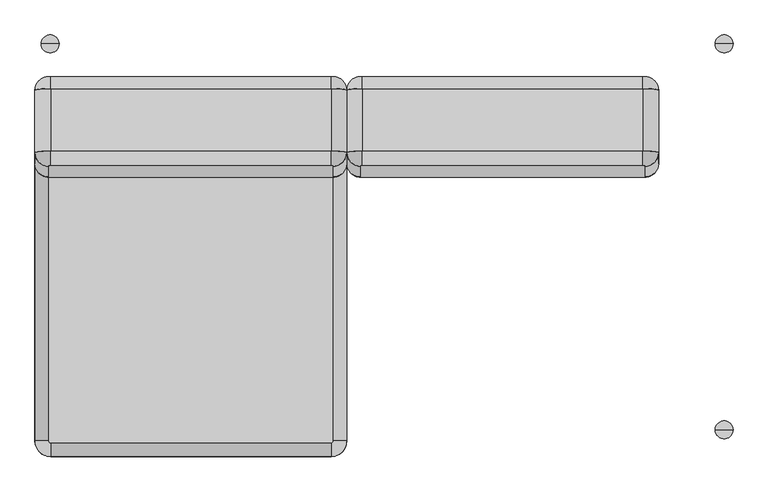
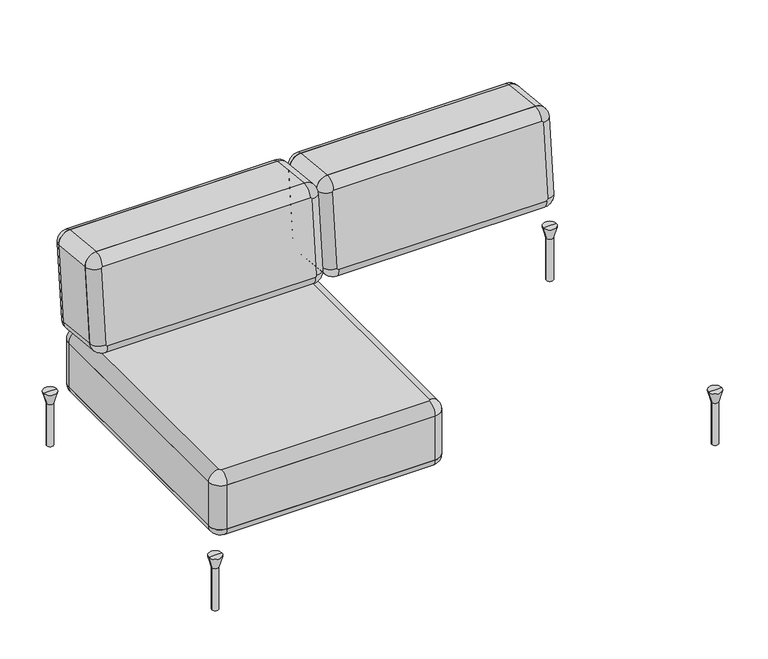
"""IFC4 building model written with IfcOpenShell, lengths in millimetres: furniture geometry, Sofa_Bensen_Neo_NEO25RIT : Sofa_Bensen_Neo_NEO25RIT."""

from ifc_helpers import new_model, si_unit, point, frame, frame_2d, origin, place, context, project, spatial, polyline, circle_curve, ellipse_curve, trimmed, segment, composite_curve, outline, extrude, source, transform, mapped, element, save
from ifc_brep_helpers import plane_surface, cylinder_surface, revolved_surface, advanced_brep


def furniture_29ceb941(model_context):
    return source(origin(), model_context, "Body", "SolidModel", [
        advanced_brep(
        [(-661.0275996, 430.0263245, 0.0), (-651.1832689, 430.0263245, 0.0), (-670.8719303, 430.0263245, 0.0), (-641.0551992, 430.0263245, 170.0), (-661.0275996, 430.0263245, 170.0), (-681.0, 430.0263245, 170.0), (-651.1832689, 430.0263245, 133.7982678), (-670.8719303, 430.0263245, 133.7982678)],
        [
            (0, 1),
            (1, 2, circle_curve(frame((-661.0275996, 430.0263245, 0.0), z_axis=(0.0, 0.0, -1.0), x_axis=(-1.0, 0.0, 0.0)), 9.8443307)),
            (2, 0),
            (2, 1, circle_curve(frame((-661.0275996, 430.0263245, 0.0), z_axis=(0.0, 0.0, -1.0), x_axis=(-1.0, 0.0, 0.0)), 9.8443307)),
            (3, 4),
            (4, 5),
            (5, 3, circle_curve(frame((-661.0275996, 430.0263245, 170.0), z_axis=(0.0, 0.0, 1.0), x_axis=(-1.0, 0.0, 0.0)), 19.9724004)),
            (3, 5, circle_curve(frame((-661.0275996, 430.0263245, 170.0), z_axis=(0.0, 0.0, 1.0), x_axis=(-1.0, 0.0, 0.0)), 19.9724004)),
            (6, 3),
            (5, 7),
            (7, 6, circle_curve(frame((-661.0275996, 430.0263245, 133.7982678), z_axis=(0.0, 0.0, 1.0), x_axis=(-1.0, 0.0, 0.0)), 9.8443307)),
            (6, 7, circle_curve(frame((-661.0275996, 430.0263245, 133.7982678), z_axis=(0.0, 0.0, 1.0), x_axis=(-1.0, 0.0, 0.0)), 9.8443307)),
            (1, 6),
            (7, 2),
        ],
        [
            plane_surface(frame((-661.0275996, 430.0263245, 0.0), z_axis=(0.0, 0.0, -1.0), x_axis=(-1.0, 0.0, 0.0))),
            plane_surface(frame((-661.0275996, 430.0263245, 170.0), z_axis=(0.0, 0.0, 1.0), x_axis=(-1.0, 0.0, 0.0))),
            revolved_surface(polyline([(-681.0, 430.0263245, 170.0), (-670.8719303, 430.0263245, 133.7982678)]), (-661.0275996, 430.0263245, 210.0), (0.0, 0.0, -1.0)),
            cylinder_surface(frame((-661.0275996, 430.0263245, 210.0), z_axis=(0.0, 0.0, -1.0), x_axis=(-1.0, 0.0, 0.0)), 9.8443307),
        ],
        [
            (0, [[1, 2, 3]]),
            (0, [[-3, 4, -1]]),
            (1, [[5, 6, 7]]),
            (1, [[-6, -5, 8]]),
            (2, [[9, -7, 10, 11]]),
            (2, [[-10, -8, -9, 12]]),
            (3, [[13, -11, 14, -2]]),
            (3, [[-14, -12, -13, -4]]),
        ],
    ),
        advanced_brep(
        [(-661.0275996, -430.0263245, 0.0), (-670.8719303, -430.0263245, 0.0), (-651.1832689, -430.0263245, 0.0), (-641.0551992, -430.0263245, 170.0), (-681.0, -430.0263245, 170.0), (-661.0275996, -430.0263245, 170.0), (-651.1832689, -430.0263245, 133.7982678), (-670.8719303, -430.0263245, 133.7982678)],
        [
            (0, 1),
            (1, 2, circle_curve(frame((-661.0275996, -430.0263245, 0.0), z_axis=(0.0, 0.0, -1.0), x_axis=(-1.0, 0.0, 0.0)), 9.8443307)),
            (2, 0),
            (2, 1, circle_curve(frame((-661.0275996, -430.0263245, 0.0), z_axis=(0.0, 0.0, -1.0), x_axis=(-1.0, 0.0, 0.0)), 9.8443307)),
            (3, 4, circle_curve(frame((-661.0275996, -430.0263245, 170.0), z_axis=(0.0, 0.0, 1.0), x_axis=(-1.0, 0.0, 0.0)), 19.9724004)),
            (4, 5),
            (5, 3),
            (4, 3, circle_curve(frame((-661.0275996, -430.0263245, 170.0), z_axis=(0.0, 0.0, 1.0), x_axis=(-1.0, 0.0, 0.0)), 19.9724004)),
            (6, 7, circle_curve(frame((-661.0275996, -430.0263245, 133.7982678), z_axis=(0.0, 0.0, 1.0), x_axis=(-1.0, 0.0, 0.0)), 9.8443307)),
            (7, 4),
            (3, 6),
            (7, 6, circle_curve(frame((-661.0275996, -430.0263245, 133.7982678), z_axis=(0.0, 0.0, 1.0), x_axis=(-1.0, 0.0, 0.0)), 9.8443307)),
            (1, 7),
            (6, 2),
        ],
        [
            plane_surface(frame((-661.0275996, -430.0263245, 0.0), z_axis=(0.0, 0.0, -1.0), x_axis=(-1.0, 0.0, 0.0))),
            plane_surface(frame((-661.0275996, -430.0263245, 170.0), z_axis=(0.0, 0.0, 1.0), x_axis=(-1.0, 0.0, 0.0))),
            revolved_surface(polyline([(-681.0, -430.0263245, 170.0), (-670.8719303, -430.0263245, 133.7982678)]), (-661.0275996, -430.0263245, 210.0), (0.0, 0.0, -1.0)),
            cylinder_surface(frame((-661.0275996, -430.0263245, 210.0), z_axis=(0.0, 0.0, -1.0), x_axis=(-1.0, 0.0, 0.0)), 9.8443307),
        ],
        [
            (0, [[1, 2, 3]]),
            (0, [[-3, 4, -1]]),
            (1, [[5, 6, 7]]),
            (1, [[8, -7, -6]]),
            (2, [[9, 10, -5, 11]]),
            (2, [[12, -11, -8, -10]]),
            (3, [[-2, 13, -9, 14]]),
            (3, [[-4, -14, -12, -13]]),
        ],
    ),
        advanced_brep(
        [(841.0275996, 430.0263245, 0.0), (850.8719302, 430.0263245, 0.0), (831.1832689, 430.0263245, 0.0), (821.0551992, 430.0263245, 170.0), (860.9999999, 430.0263245, 170.0), (841.0275996, 430.0263245, 170.0), (831.1832689, 430.0263245, 133.7982678), (850.8719302, 430.0263245, 133.7982678)],
        [
            (0, 1),
            (1, 2, circle_curve(frame((841.0275996, 430.0263245, 0.0), z_axis=(0.0, 0.0, -1.0), x_axis=(1.0, 0.0, 0.0)), 9.8443307)),
            (2, 0),
            (2, 1, circle_curve(frame((841.0275996, 430.0263245, 0.0), z_axis=(0.0, 0.0, -1.0), x_axis=(1.0, 0.0, 0.0)), 9.8443307)),
            (3, 4, circle_curve(frame((841.0275996, 430.0263245, 170.0), z_axis=(0.0, 0.0, 1.0), x_axis=(1.0, 0.0, 0.0)), 19.9724004)),
            (4, 5),
            (5, 3),
            (4, 3, circle_curve(frame((841.0275996, 430.0263245, 170.0), z_axis=(0.0, 0.0, 1.0), x_axis=(1.0, 0.0, 0.0)), 19.9724004)),
            (6, 7, circle_curve(frame((841.0275996, 430.0263245, 133.7982678), z_axis=(0.0, 0.0, 1.0), x_axis=(1.0, 0.0, 0.0)), 9.8443307)),
            (7, 4),
            (3, 6),
            (7, 6, circle_curve(frame((841.0275996, 430.0263245, 133.7982678), z_axis=(0.0, 0.0, 1.0), x_axis=(1.0, 0.0, 0.0)), 9.8443307)),
            (1, 7),
            (6, 2),
        ],
        [
            plane_surface(frame((841.0275996, 430.0263245, 0.0), z_axis=(0.0, 0.0, -1.0), x_axis=(1.0, 0.0, 0.0))),
            plane_surface(frame((841.0275996, 430.0263245, 170.0), z_axis=(0.0, 0.0, 1.0), x_axis=(1.0, 0.0, 0.0))),
            revolved_surface(polyline([(860.9999999, 430.0263245, 170.0), (850.8719302, 430.0263245, 133.7982678)]), (841.0275996, 430.0263245, 210.0), (0.0, 0.0, -1.0)),
            cylinder_surface(frame((841.0275996, 430.0263245, 210.0), z_axis=(0.0, 0.0, -1.0), x_axis=(1.0, 0.0, 0.0)), 9.8443307),
        ],
        [
            (0, [[1, 2, 3]]),
            (0, [[-3, 4, -1]]),
            (1, [[5, 6, 7]]),
            (1, [[8, -7, -6]]),
            (2, [[9, 10, -5, 11]]),
            (2, [[12, -11, -8, -10]]),
            (3, [[-2, 13, -9, 14]]),
            (3, [[-4, -14, -12, -13]]),
        ],
    ),
        advanced_brep(
        [(841.0275996, -430.0263245, 0.0), (831.1832689, -430.0263245, 0.0), (850.8719302, -430.0263245, 0.0), (821.0551992, -430.0263245, 170.0), (841.0275996, -430.0263245, 170.0), (860.9999999, -430.0263245, 170.0), (831.1832689, -430.0263245, 133.7982678), (850.8719302, -430.0263245, 133.7982678)],
        [
            (0, 1),
            (1, 2, circle_curve(frame((841.0275996, -430.0263245, 0.0), z_axis=(0.0, 0.0, -1.0), x_axis=(1.0, 0.0, 0.0)), 9.8443307)),
            (2, 0),
            (2, 1, circle_curve(frame((841.0275996, -430.0263245, 0.0), z_axis=(0.0, 0.0, -1.0), x_axis=(1.0, 0.0, 0.0)), 9.8443307)),
            (3, 4),
            (4, 5),
            (5, 3, circle_curve(frame((841.0275996, -430.0263245, 170.0), z_axis=(0.0, 0.0, 1.0), x_axis=(1.0, 0.0, 0.0)), 19.9724004)),
            (3, 5, circle_curve(frame((841.0275996, -430.0263245, 170.0), z_axis=(0.0, 0.0, 1.0), x_axis=(1.0, 0.0, 0.0)), 19.9724004)),
            (6, 3),
            (5, 7),
            (7, 6, circle_curve(frame((841.0275996, -430.0263245, 133.7982678), z_axis=(0.0, 0.0, 1.0), x_axis=(1.0, 0.0, 0.0)), 9.8443307)),
            (6, 7, circle_curve(frame((841.0275996, -430.0263245, 133.7982678), z_axis=(0.0, 0.0, 1.0), x_axis=(1.0, 0.0, 0.0)), 9.8443307)),
            (1, 6),
            (7, 2),
        ],
        [
            plane_surface(frame((841.0275996, -430.0263245, 0.0), z_axis=(0.0, 0.0, -1.0), x_axis=(1.0, 0.0, 0.0))),
            plane_surface(frame((841.0275996, -430.0263245, 170.0), z_axis=(0.0, 0.0, 1.0), x_axis=(1.0, 0.0, 0.0))),
            revolved_surface(polyline([(860.9999999, -430.0263245, 170.0), (850.8719302, -430.0263245, 133.7982678)]), (841.0275996, -430.0263245, 210.0), (0.0, 0.0, -1.0)),
            cylinder_surface(frame((841.0275996, -430.0263245, 210.0), z_axis=(0.0, 0.0, -1.0), x_axis=(1.0, 0.0, 0.0)), 9.8443307),
        ],
        [
            (0, [[1, 2, 3]]),
            (0, [[-3, 4, -1]]),
            (1, [[5, 6, 7]]),
            (1, [[-6, -5, 8]]),
            (2, [[9, -7, 10, 11]]),
            (2, [[-10, -8, -9, 12]]),
            (3, [[13, -11, 14, -2]]),
            (3, [[-14, -12, -13, -4]]),
        ],
    ),
        advanced_brep(
        [(-35.0, 330.2036921, 743.2087665), (-660.0, 330.2036921, 743.2087665), (-695.0, 326.5451959, 708.4005002), (-695.0, 302.5036494, 479.6604642), (-660.0, 298.8451531, 444.8521979), (-35.0, 298.8451531, 444.8521979), (0.0, 302.5036494, 479.6604642), (0.0, 326.5451959, 708.4005002), (-30.0, 356.3808528, 705.2646463), (-30.0, 332.3393062, 476.5246103), (-35.0, 331.8166639, 471.5520008), (-660.0, 331.8166639, 471.5520008), (-665.0, 332.3393062, 476.5246103), (-665.0, 356.3808528, 705.2646463), (-660.0, 356.9034951, 710.2372557), (-35.0, 356.9034951, 710.2372557)],
        [
            (0, 1),
            (1, 2, circle_curve(frame((-660.0, 326.5451959, 708.4005002), z_axis=(0.0, -0.9945218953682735, 0.10452846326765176), x_axis=(0.0, 0.10452846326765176, 0.9945218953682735)), 35.0)),
            (2, 3),
            (3, 4, circle_curve(frame((-660.0, 302.5036494, 479.6604642), z_axis=(0.0, -0.9945218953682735, 0.10452846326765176), x_axis=(-1.0, 0.0, 0.0)), 35.0)),
            (4, 5),
            (5, 6, circle_curve(frame((-35.0, 302.5036494, 479.6604642), z_axis=(0.0, -0.9945218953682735, 0.10452846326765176), x_axis=(0.0, -0.10452846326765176, -0.9945218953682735)), 35.0)),
            (6, 7),
            (7, 0, circle_curve(frame((-35.0, 326.5451959, 708.4005002), z_axis=(0.0, -0.9945218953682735, 0.10452846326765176), x_axis=(1.0, 0.0, 0.0)), 35.0)),
            (8, 9),
            (9, 10, circle_curve(frame((-35.0, 332.3393062, 476.5246103), z_axis=(0.0, 0.9945218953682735, -0.10452846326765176), x_axis=(0.0, -0.10452846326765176, -0.9945218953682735)), 5.0)),
            (10, 11),
            (11, 12, circle_curve(frame((-660.0, 332.3393062, 476.5246103), z_axis=(0.0, 0.9945218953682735, -0.10452846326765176), x_axis=(-1.0, 0.0, 0.0)), 5.0)),
            (12, 13),
            (13, 14, circle_curve(frame((-660.0, 356.3808528, 705.2646463), z_axis=(0.0, 0.9945218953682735, -0.10452846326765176), x_axis=(0.0, 0.10452846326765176, 0.9945218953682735)), 5.0)),
            (14, 15),
            (15, 8, circle_curve(frame((-35.0, 356.3808528, 705.2646463), z_axis=(0.0, 0.9945218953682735, -0.10452846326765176), x_axis=(1.0, 0.0, 0.0)), 5.0)),
            (15, 0, circle_curve(frame((-35.0, 327.0678382, 713.3731096), z_axis=(1.0, 0.0, 0.0), x_axis=(0.0, 0.10452846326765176, 0.9945218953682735)), 30.0)),
            (7, 8, circle_curve(frame((-30.0, 326.5451959, 708.4005002), z_axis=(0.0, 0.10452846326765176, 0.9945218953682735), x_axis=(1.0, 0.0, 0.0)), 30.0)),
            (14, 1, circle_curve(frame((-660.0, 327.0678382, 713.3731096), z_axis=(1.0, 0.0, 0.0), x_axis=(0.0, 0.10452846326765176, 0.9945218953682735)), 30.0)),
            (13, 2, circle_curve(frame((-665.0, 326.5451959, 708.4005002), z_axis=(0.0, 0.10452846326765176, 0.9945218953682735), x_axis=(-1.0, 0.0, 0.0)), 30.0)),
            (12, 3, circle_curve(frame((-665.0, 302.5036494, 479.6604642), z_axis=(0.0, 0.10452846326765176, 0.9945218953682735), x_axis=(-1.0, 0.0, 0.0)), 30.0)),
            (11, 4, circle_curve(frame((-660.0, 301.981007, 474.6878547), z_axis=(-1.0, 0.0, 0.0), x_axis=(0.0, -0.10452846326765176, -0.9945218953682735)), 30.0)),
            (10, 5, circle_curve(frame((-35.0, 301.981007, 474.6878547), z_axis=(-1.0, 0.0, 0.0), x_axis=(0.0, -0.10452846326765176, -0.9945218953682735)), 30.0)),
            (9, 6, circle_curve(frame((-30.0, 302.5036494, 479.6604642), z_axis=(0.0, -0.10452846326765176, -0.9945218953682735), x_axis=(1.0, 0.0, 0.0)), 30.0)),
        ],
        [
            plane_surface(frame((-35.0, 303.0262917, 484.6330737), z_axis=(0.0, -0.9945218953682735, 0.10452846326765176), x_axis=(1.0, 0.0, 0.0))),
            plane_surface(frame((-35.0, 332.8619485, 481.4972198), z_axis=(0.0, 0.9945218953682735, -0.10452846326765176), x_axis=(-1.0, 0.0, 0.0))),
            revolved_surface(trimmed(ellipse_curve(frame((-30.0, 326.5451959, 708.4005002), z_axis=(0.0, 0.10452846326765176, 0.9945218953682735), x_axis=(1.0, 0.0, 0.0)), 30.0, 30.0), [point((0.0, 326.5451959, 708.4005002))], [point((-30.0, 356.3808528, 705.2646463))], True, "CARTESIAN"), (-35.0, 326.5451959, 708.4005002), (0.0, 0.9945218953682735, -0.10452846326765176)),
            cylinder_surface(frame((-35.0, 327.0678382, 713.3731096), z_axis=(1.0, 0.0, 0.0), x_axis=(0.0, 0.10452846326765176, 0.9945218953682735)), 30.0),
            revolved_surface(trimmed(ellipse_curve(frame((-660.0, 327.0678382, 713.3731096), z_axis=(-1.0, 0.0, 0.0), x_axis=(0.0, 0.10452846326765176, 0.9945218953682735)), 30.0, 30.0), [point((-660.0, 330.2036921, 743.2087665))], [point((-660.0, 356.9034951, 710.2372557))], True, "CARTESIAN"), (-660.0, 326.5451959, 708.4005002), (0.0, 0.9945218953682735, -0.10452846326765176)),
            cylinder_surface(frame((-665.0, 326.5451959, 708.4005002), z_axis=(0.0, 0.10452846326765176, 0.9945218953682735), x_axis=(-1.0, 0.0, 0.0)), 30.0),
            revolved_surface(trimmed(ellipse_curve(frame((-665.0, 302.5036494, 479.6604642), z_axis=(0.0, -0.10452846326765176, -0.9945218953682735), x_axis=(-1.0, 0.0, 0.0)), 30.0, 30.0), [point((-695.0, 302.5036494, 479.6604642))], [point((-665.0, 332.3393062, 476.5246103))], True, "CARTESIAN"), (-660.0, 302.5036494, 479.6604642), (0.0, 0.9945218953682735, -0.10452846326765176)),
            cylinder_surface(frame((-660.0, 301.981007, 474.6878547), z_axis=(-1.0, 0.0, 0.0), x_axis=(0.0, -0.10452846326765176, -0.9945218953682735)), 30.0),
            revolved_surface(trimmed(ellipse_curve(frame((-35.0, 301.981007, 474.6878547), z_axis=(1.0, 0.0, 0.0), x_axis=(0.0, -0.10452846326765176, -0.9945218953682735)), 30.0, 30.0), [point((-35.0, 298.8451531, 444.8521979))], [point((-35.0, 331.8166639, 471.5520008))], True, "CARTESIAN"), (-35.0, 302.5036494, 479.6604642), (0.0, 0.9945218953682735, -0.10452846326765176)),
            cylinder_surface(frame((-30.0, 302.5036494, 479.6604642), z_axis=(0.0, -0.10452846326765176, -0.9945218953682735), x_axis=(1.0, 0.0, 0.0)), 30.0),
        ],
        [
            (0, [[1, 2, 3, 4, 5, 6, 7, 8]]),
            (1, [[9, 10, 11, 12, 13, 14, 15, 16]]),
            (2, [[-16, 17, -8, 18]]),
            (3, [[-15, 19, -1, -17]]),
            (4, [[-14, 20, -2, -19]]),
            (5, [[-13, 21, -3, -20]]),
            (6, [[-12, 22, -4, -21]]),
            (7, [[-11, 23, -5, -22]]),
            (8, [[-10, 24, -6, -23]]),
            (9, [[-7, -24, -9, -18]]),
        ],
    ),
        advanced_brep(
        [(-35.0, 190.9706268, 757.8427514), (-35.0, 157.999116, 731.1429484), (-30.0, 157.4764737, 726.1703389), (0.0, 187.3121306, 723.034485), (-660.0, 190.9706268, 757.8427514), (-660.0, 157.999116, 731.1429484), (-695.0, 187.3121306, 723.034485), (-665.0, 157.4764737, 726.1703389), (-695.0, 163.270584, 494.2944491), (-665.0, 133.4349271, 497.430303), (-660.0, 159.6120878, 459.4861827), (-660.0, 132.9122848, 492.4576935), (-35.0, 159.6120878, 459.4861827), (-35.0, 132.9122848, 492.4576935), (0.0, 163.270584, 494.2944491), (-30.0, 133.4349271, 497.430303)],
        [
            (0, 1, circle_curve(frame((-35.0, 187.8347729, 728.0070945), z_axis=(1.0, 0.0, 0.0), x_axis=(0.0, 0.10452846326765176, 0.9945218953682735)), 30.0)),
            (1, 2, circle_curve(frame((-35.0, 157.4764737, 726.1703389), z_axis=(0.0, 0.9945218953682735, -0.10452846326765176), x_axis=(1.0, 0.0, 0.0)), 5.0)),
            (2, 3, circle_curve(frame((-30.0, 187.3121306, 723.034485), z_axis=(0.0, 0.10452846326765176, 0.9945218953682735), x_axis=(1.0, 0.0, 0.0)), 30.0)),
            (3, 0, circle_curve(frame((-35.0, 187.3121306, 723.034485), z_axis=(0.0, -0.9945218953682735, 0.10452846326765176), x_axis=(1.0, 0.0, 0.0)), 35.0)),
            (0, 4),
            (4, 5, circle_curve(frame((-660.0, 187.8347729, 728.0070945), z_axis=(1.0, 0.0, 0.0), x_axis=(0.0, 0.10452846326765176, 0.9945218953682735)), 30.0)),
            (5, 1),
            (4, 6, circle_curve(frame((-660.0, 187.3121306, 723.034485), z_axis=(0.0, -0.9945218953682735, 0.10452846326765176), x_axis=(0.0, 0.10452846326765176, 0.9945218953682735)), 35.0)),
            (6, 7, circle_curve(frame((-665.0, 187.3121306, 723.034485), z_axis=(0.0, 0.10452846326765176, 0.9945218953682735), x_axis=(-1.0, 0.0, 0.0)), 30.0)),
            (7, 5, circle_curve(frame((-660.0, 157.4764737, 726.1703389), z_axis=(0.0, 0.9945218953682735, -0.10452846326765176), x_axis=(0.0, 0.10452846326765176, 0.9945218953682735)), 5.0)),
            (6, 8),
            (8, 9, circle_curve(frame((-665.0, 163.270584, 494.2944491), z_axis=(0.0, 0.10452846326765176, 0.9945218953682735), x_axis=(-1.0, 0.0, 0.0)), 30.0)),
            (9, 7),
            (8, 10, circle_curve(frame((-660.0, 163.270584, 494.2944491), z_axis=(0.0, -0.9945218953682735, 0.10452846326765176), x_axis=(-1.0, 0.0, 0.0)), 35.0)),
            (10, 11, circle_curve(frame((-660.0, 162.7479417, 489.3218396), z_axis=(-1.0, 0.0, 0.0), x_axis=(0.0, -0.10452846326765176, -0.9945218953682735)), 30.0)),
            (11, 9, circle_curve(frame((-660.0, 133.4349271, 497.430303), z_axis=(0.0, 0.9945218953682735, -0.10452846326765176), x_axis=(-1.0, 0.0, 0.0)), 5.0)),
            (10, 12),
            (12, 13, circle_curve(frame((-35.0, 162.7479417, 489.3218396), z_axis=(-1.0, 0.0, 0.0), x_axis=(0.0, -0.10452846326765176, -0.9945218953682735)), 30.0)),
            (13, 11),
            (12, 14, circle_curve(frame((-35.0, 163.270584, 494.2944491), z_axis=(0.0, -0.9945218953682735, 0.10452846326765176), x_axis=(0.0, -0.10452846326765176, -0.9945218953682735)), 35.0)),
            (14, 15, circle_curve(frame((-30.0, 163.270584, 494.2944491), z_axis=(0.0, -0.10452846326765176, -0.9945218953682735), x_axis=(1.0, 0.0, 0.0)), 30.0)),
            (15, 13, circle_curve(frame((-35.0, 133.4349271, 497.430303), z_axis=(0.0, 0.9945218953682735, -0.10452846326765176), x_axis=(0.0, -0.10452846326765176, -0.9945218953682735)), 5.0)),
            (2, 15),
            (14, 3),
        ],
        [
            revolved_surface(trimmed(ellipse_curve(frame((-30.0, 187.3121306, 723.034485), z_axis=(0.0, 0.10452846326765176, 0.9945218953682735), x_axis=(1.0, 0.0, 0.0)), 30.0, 30.0), [point((-30.0, 157.4764737, 726.1703389))], [point((0.0, 187.3121306, 723.034485))], True, "CARTESIAN"), (-35.0, 356.3808528, 705.2646463), (0.0, 0.9945218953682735, -0.10452846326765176)),
            cylinder_surface(frame((-35.0, 187.8347729, 728.0070945), z_axis=(1.0, 0.0, 0.0), x_axis=(0.0, 0.10452846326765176, 0.9945218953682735)), 30.0),
            revolved_surface(trimmed(ellipse_curve(frame((-660.0, 187.8347729, 728.0070945), z_axis=(-1.0, 0.0, 0.0), x_axis=(0.0, 0.10452846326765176, 0.9945218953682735)), 30.0, 30.0), [point((-660.0, 157.999116, 731.1429484))], [point((-660.0, 190.9706268, 757.8427514))], True, "CARTESIAN"), (-660.0, 356.3808528, 705.2646463), (0.0, 0.9945218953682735, -0.10452846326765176)),
            cylinder_surface(frame((-665.0, 187.3121306, 723.034485), z_axis=(0.0, 0.10452846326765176, 0.9945218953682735), x_axis=(-1.0, 0.0, 0.0)), 30.0),
            revolved_surface(trimmed(ellipse_curve(frame((-665.0, 163.270584, 494.2944491), z_axis=(0.0, -0.10452846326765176, -0.9945218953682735), x_axis=(-1.0, 0.0, 0.0)), 30.0, 30.0), [point((-665.0, 133.4349271, 497.430303))], [point((-695.0, 163.270584, 494.2944491))], True, "CARTESIAN"), (-660.0, 332.3393062, 476.5246103), (0.0, 0.9945218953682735, -0.10452846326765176)),
            cylinder_surface(frame((-660.0, 162.7479417, 489.3218396), z_axis=(-1.0, 0.0, 0.0), x_axis=(0.0, -0.10452846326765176, -0.9945218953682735)), 30.0),
            revolved_surface(trimmed(ellipse_curve(frame((-35.0, 162.7479417, 489.3218396), z_axis=(1.0, 0.0, 0.0), x_axis=(0.0, -0.10452846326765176, -0.9945218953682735)), 30.0, 30.0), [point((-35.0, 132.9122848, 492.4576935))], [point((-35.0, 159.6120878, 459.4861827))], True, "CARTESIAN"), (-35.0, 332.3393062, 476.5246103), (0.0, 0.9945218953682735, -0.10452846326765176)),
            cylinder_surface(frame((-30.0, 163.270584, 494.2944491), z_axis=(0.0, -0.10452846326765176, -0.9945218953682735), x_axis=(1.0, 0.0, 0.0)), 30.0),
            plane_surface(frame((0.0, 163.270584, 494.2944491), z_axis=(0.0, 0.9945218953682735, -0.10452846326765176), x_axis=(0.0, 0.10452846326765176, 0.9945218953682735))),
            plane_surface(frame((-35.0, 133.9575695, 502.4029125), z_axis=(0.0, -0.9945218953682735, 0.10452846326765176), x_axis=(1.0, 0.0, 0.0))),
        ],
        [
            (0, [[1, 2, 3, 4]]),
            (1, [[5, 6, 7, -1]]),
            (2, [[8, 9, 10, -6]]),
            (3, [[11, 12, 13, -9]]),
            (4, [[14, 15, 16, -12]]),
            (5, [[17, 18, 19, -15]]),
            (6, [[20, 21, 22, -18]]),
            (7, [[23, -21, 24, -3]]),
            (8, [[-24, -20, -17, -14, -11, -8, -5, -4]]),
            (9, [[-7, -10, -13, -16, -19, -22, -23, -2]]),
        ],
    ),
        extrude(outline(composite_curve([segment(trimmed(circle_curve(frame_2d((0.0, 35.0000001)), 35.0), [point((-35.0, 35.0000001))], [point((0.0, 70.0))], False, "CARTESIAN"), True, "CONTINUOUS"), segment(polyline([(0.0, 70.0), (625.0, 70.0)]), True, "CONTINUOUS"), segment(trimmed(circle_curve(frame_2d((625.0, 35.0000001)), 35.0), [point((625.0, 70.0))], [point((660.0, 35.0000001))], False, "CARTESIAN"), True, "CONTINUOUS"), segment(polyline([(660.0, 35.0000001), (660.0, -195.0)]), True, "CONTINUOUS"), segment(trimmed(circle_curve(frame_2d((625.0, -195.0)), 35.0), [point((660.0, -195.0))], [point((625.0, -230.0))], False, "CARTESIAN"), True, "CONTINUOUS"), segment(polyline([(625.0, -230.0), (0.0, -230.0)]), True, "CONTINUOUS"), segment(trimmed(circle_curve(frame_2d((0.0, -195.0)), 35.0), [point((0.0, -230.0))], [point((-35.0, -195.0))], False, "CARTESIAN"), True, "CONTINUOUS"), segment(polyline([(-35.0, -195.0), (-35.0, 35.0000001)]), True, "CONTINUOUS")], self_intersect=False)), frame((-35.0, 306.1621456, 514.4687306), z_axis=(0.0, -0.9945218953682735, 0.10452846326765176), x_axis=(-1.0, 0.0, 0.0)), (0.0, 0.0, 1.0), 140.0),
        advanced_brep(
        [(660.0, 330.2036921, 743.2087665), (35.0, 330.2036921, 743.2087665), (0.0, 326.5451959, 708.4005002), (0.0, 302.5036494, 479.6604642), (35.0, 298.8451531, 444.8521979), (660.0, 298.8451531, 444.8521979), (695.0, 302.5036494, 479.6604642), (695.0, 326.5451959, 708.4005002), (665.0, 356.3808528, 705.2646463), (665.0, 332.3393062, 476.5246103), (660.0, 331.8166639, 471.5520008), (35.0, 331.8166639, 471.5520008), (30.0, 332.3393062, 476.5246103), (30.0, 356.3808528, 705.2646463), (35.0, 356.9034951, 710.2372557), (660.0, 356.9034951, 710.2372557)],
        [
            (0, 1),
            (1, 2, circle_curve(frame((35.0, 326.5451959, 708.4005002), z_axis=(0.0, -0.9945218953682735, 0.10452846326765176), x_axis=(0.0, 0.10452846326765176, 0.9945218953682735)), 35.0)),
            (2, 3),
            (3, 4, circle_curve(frame((35.0, 302.5036494, 479.6604642), z_axis=(0.0, -0.9945218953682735, 0.10452846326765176), x_axis=(-1.0, 0.0, 0.0)), 35.0)),
            (4, 5),
            (5, 6, circle_curve(frame((660.0, 302.5036494, 479.6604642), z_axis=(0.0, -0.9945218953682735, 0.10452846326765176), x_axis=(0.0, -0.10452846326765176, -0.9945218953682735)), 35.0)),
            (6, 7),
            (7, 0, circle_curve(frame((660.0, 326.5451959, 708.4005002), z_axis=(0.0, -0.9945218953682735, 0.10452846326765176), x_axis=(1.0, 0.0, 0.0)), 35.0)),
            (8, 9),
            (9, 10, circle_curve(frame((660.0, 332.3393062, 476.5246103), z_axis=(0.0, 0.9945218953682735, -0.10452846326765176), x_axis=(0.0, -0.10452846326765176, -0.9945218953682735)), 5.0)),
            (10, 11),
            (11, 12, circle_curve(frame((35.0, 332.3393062, 476.5246103), z_axis=(0.0, 0.9945218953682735, -0.10452846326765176), x_axis=(-1.0, 0.0, 0.0)), 5.0)),
            (12, 13),
            (13, 14, circle_curve(frame((35.0, 356.3808528, 705.2646463), z_axis=(0.0, 0.9945218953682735, -0.10452846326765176), x_axis=(0.0, 0.10452846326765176, 0.9945218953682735)), 5.0)),
            (14, 15),
            (15, 8, circle_curve(frame((660.0, 356.3808528, 705.2646463), z_axis=(0.0, 0.9945218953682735, -0.10452846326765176), x_axis=(1.0, 0.0, 0.0)), 5.0)),
            (15, 0, circle_curve(frame((660.0, 327.0678382, 713.3731096), z_axis=(1.0, 0.0, 0.0), x_axis=(0.0, 0.10452846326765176, 0.9945218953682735)), 30.0)),
            (7, 8, circle_curve(frame((665.0, 326.5451959, 708.4005002), z_axis=(0.0, 0.10452846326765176, 0.9945218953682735), x_axis=(1.0, 0.0, 0.0)), 30.0)),
            (14, 1, circle_curve(frame((35.0, 327.0678382, 713.3731096), z_axis=(1.0, 0.0, 0.0), x_axis=(0.0, 0.10452846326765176, 0.9945218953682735)), 30.0)),
            (13, 2, circle_curve(frame((30.0, 326.5451959, 708.4005002), z_axis=(0.0, 0.10452846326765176, 0.9945218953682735), x_axis=(-1.0, 0.0, 0.0)), 30.0)),
            (12, 3, circle_curve(frame((30.0, 302.5036494, 479.6604642), z_axis=(0.0, 0.10452846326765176, 0.9945218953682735), x_axis=(-1.0, 0.0, 0.0)), 30.0)),
            (11, 4, circle_curve(frame((35.0, 301.981007, 474.6878547), z_axis=(-1.0, 0.0, 0.0), x_axis=(0.0, -0.10452846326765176, -0.9945218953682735)), 30.0)),
            (10, 5, circle_curve(frame((660.0, 301.981007, 474.6878547), z_axis=(-1.0, 0.0, 0.0), x_axis=(0.0, -0.10452846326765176, -0.9945218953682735)), 30.0)),
            (9, 6, circle_curve(frame((665.0, 302.5036494, 479.6604642), z_axis=(0.0, -0.10452846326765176, -0.9945218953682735), x_axis=(1.0, 0.0, 0.0)), 30.0)),
        ],
        [
            plane_surface(frame((660.0, 303.0262917, 484.6330737), z_axis=(0.0, -0.9945218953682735, 0.10452846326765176), x_axis=(1.0, 0.0, 0.0))),
            plane_surface(frame((660.0, 332.8619485, 481.4972198), z_axis=(0.0, 0.9945218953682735, -0.10452846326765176), x_axis=(-1.0, 0.0, 0.0))),
            revolved_surface(trimmed(ellipse_curve(frame((665.0, 326.5451959, 708.4005002), z_axis=(0.0, 0.10452846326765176, 0.9945218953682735), x_axis=(1.0, 0.0, 0.0)), 30.0, 30.0), [point((695.0, 326.5451959, 708.4005002))], [point((665.0, 356.3808528, 705.2646463))], True, "CARTESIAN"), (660.0, 326.5451959, 708.4005002), (0.0, 0.9945218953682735, -0.10452846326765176)),
            cylinder_surface(frame((660.0, 327.0678382, 713.3731096), z_axis=(1.0, 0.0, 0.0), x_axis=(0.0, 0.10452846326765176, 0.9945218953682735)), 30.0),
            revolved_surface(trimmed(ellipse_curve(frame((35.0, 327.0678382, 713.3731096), z_axis=(-1.0, 0.0, 0.0), x_axis=(0.0, 0.10452846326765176, 0.9945218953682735)), 30.0, 30.0), [point((35.0, 330.2036921, 743.2087665))], [point((35.0, 356.9034951, 710.2372557))], True, "CARTESIAN"), (35.0, 326.5451959, 708.4005002), (0.0, 0.9945218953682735, -0.10452846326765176)),
            cylinder_surface(frame((30.0, 326.5451959, 708.4005002), z_axis=(0.0, 0.10452846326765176, 0.9945218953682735), x_axis=(-1.0, 0.0, 0.0)), 30.0),
            revolved_surface(trimmed(ellipse_curve(frame((30.0, 302.5036494, 479.6604642), z_axis=(0.0, -0.10452846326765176, -0.9945218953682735), x_axis=(-1.0, 0.0, 0.0)), 30.0, 30.0), [point((0.0, 302.5036494, 479.6604642))], [point((30.0, 332.3393062, 476.5246103))], True, "CARTESIAN"), (35.0, 302.5036494, 479.6604642), (0.0, 0.9945218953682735, -0.10452846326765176)),
            cylinder_surface(frame((35.0, 301.981007, 474.6878547), z_axis=(-1.0, 0.0, 0.0), x_axis=(0.0, -0.10452846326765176, -0.9945218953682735)), 30.0),
            revolved_surface(trimmed(ellipse_curve(frame((660.0, 301.981007, 474.6878547), z_axis=(1.0, 0.0, 0.0), x_axis=(0.0, -0.10452846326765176, -0.9945218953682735)), 30.0, 30.0), [point((660.0, 298.8451531, 444.8521979))], [point((660.0, 331.8166639, 471.5520008))], True, "CARTESIAN"), (660.0, 302.5036494, 479.6604642), (0.0, 0.9945218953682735, -0.10452846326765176)),
            cylinder_surface(frame((665.0, 302.5036494, 479.6604642), z_axis=(0.0, -0.10452846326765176, -0.9945218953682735), x_axis=(1.0, 0.0, 0.0)), 30.0),
        ],
        [
            (0, [[1, 2, 3, 4, 5, 6, 7, 8]]),
            (1, [[9, 10, 11, 12, 13, 14, 15, 16]]),
            (2, [[-16, 17, -8, 18]]),
            (3, [[-15, 19, -1, -17]]),
            (4, [[-14, 20, -2, -19]]),
            (5, [[-13, 21, -3, -20]]),
            (6, [[-12, 22, -4, -21]]),
            (7, [[-11, 23, -5, -22]]),
            (8, [[-10, 24, -6, -23]]),
            (9, [[-7, -24, -9, -18]]),
        ],
    ),
        advanced_brep(
        [(660.0, 190.9706268, 757.8427514), (660.0, 157.999116, 731.1429484), (665.0, 157.4764737, 726.1703389), (695.0, 187.3121306, 723.034485), (35.0, 190.9706268, 757.8427514), (35.0, 157.999116, 731.1429484), (0.0, 187.3121306, 723.034485), (30.0, 157.4764737, 726.1703389), (0.0, 163.270584, 494.2944491), (30.0, 133.4349271, 497.430303), (35.0, 159.6120878, 459.4861827), (35.0, 132.9122848, 492.4576935), (660.0, 159.6120878, 459.4861827), (660.0, 132.9122848, 492.4576935), (695.0, 163.270584, 494.2944491), (665.0, 133.4349271, 497.430303)],
        [
            (0, 1, circle_curve(frame((660.0, 187.8347729, 728.0070945), z_axis=(1.0, 0.0, 0.0), x_axis=(0.0, 0.10452846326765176, 0.9945218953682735)), 30.0)),
            (1, 2, circle_curve(frame((660.0, 157.4764737, 726.1703389), z_axis=(0.0, 0.9945218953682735, -0.10452846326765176), x_axis=(1.0, 0.0, 0.0)), 5.0)),
            (2, 3, circle_curve(frame((665.0, 187.3121306, 723.034485), z_axis=(0.0, 0.10452846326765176, 0.9945218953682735), x_axis=(1.0, 0.0, 0.0)), 30.0)),
            (3, 0, circle_curve(frame((660.0, 187.3121306, 723.034485), z_axis=(0.0, -0.9945218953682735, 0.10452846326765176), x_axis=(1.0, 0.0, 0.0)), 35.0)),
            (0, 4),
            (4, 5, circle_curve(frame((35.0, 187.8347729, 728.0070945), z_axis=(1.0, 0.0, 0.0), x_axis=(0.0, 0.10452846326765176, 0.9945218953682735)), 30.0)),
            (5, 1),
            (4, 6, circle_curve(frame((35.0, 187.3121306, 723.034485), z_axis=(0.0, -0.9945218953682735, 0.10452846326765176), x_axis=(0.0, 0.10452846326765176, 0.9945218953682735)), 35.0)),
            (6, 7, circle_curve(frame((30.0, 187.3121306, 723.034485), z_axis=(0.0, 0.10452846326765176, 0.9945218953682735), x_axis=(-1.0, 0.0, 0.0)), 30.0)),
            (7, 5, circle_curve(frame((35.0, 157.4764737, 726.1703389), z_axis=(0.0, 0.9945218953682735, -0.10452846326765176), x_axis=(0.0, 0.10452846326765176, 0.9945218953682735)), 5.0)),
            (6, 8),
            (8, 9, circle_curve(frame((30.0, 163.270584, 494.2944491), z_axis=(0.0, 0.10452846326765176, 0.9945218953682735), x_axis=(-1.0, 0.0, 0.0)), 30.0)),
            (9, 7),
            (8, 10, circle_curve(frame((35.0, 163.270584, 494.2944491), z_axis=(0.0, -0.9945218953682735, 0.10452846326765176), x_axis=(-1.0, 0.0, 0.0)), 35.0)),
            (10, 11, circle_curve(frame((35.0, 162.7479417, 489.3218396), z_axis=(-1.0, 0.0, 0.0), x_axis=(0.0, -0.10452846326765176, -0.9945218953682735)), 30.0)),
            (11, 9, circle_curve(frame((35.0, 133.4349271, 497.430303), z_axis=(0.0, 0.9945218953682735, -0.10452846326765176), x_axis=(-1.0, 0.0, 0.0)), 5.0)),
            (10, 12),
            (12, 13, circle_curve(frame((660.0, 162.7479417, 489.3218396), z_axis=(-1.0, 0.0, 0.0), x_axis=(0.0, -0.10452846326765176, -0.9945218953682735)), 30.0)),
            (13, 11),
            (12, 14, circle_curve(frame((660.0, 163.270584, 494.2944491), z_axis=(0.0, -0.9945218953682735, 0.10452846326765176), x_axis=(0.0, -0.10452846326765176, -0.9945218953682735)), 35.0)),
            (14, 15, circle_curve(frame((665.0, 163.270584, 494.2944491), z_axis=(0.0, -0.10452846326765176, -0.9945218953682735), x_axis=(1.0, 0.0, 0.0)), 30.0)),
            (15, 13, circle_curve(frame((660.0, 133.4349271, 497.430303), z_axis=(0.0, 0.9945218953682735, -0.10452846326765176), x_axis=(0.0, -0.10452846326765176, -0.9945218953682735)), 5.0)),
            (2, 15),
            (14, 3),
        ],
        [
            revolved_surface(trimmed(ellipse_curve(frame((665.0, 187.3121306, 723.034485), z_axis=(0.0, 0.10452846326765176, 0.9945218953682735), x_axis=(1.0, 0.0, 0.0)), 30.0, 30.0), [point((665.0, 157.4764737, 726.1703389))], [point((695.0, 187.3121306, 723.034485))], True, "CARTESIAN"), (660.0, 356.3808528, 705.2646463), (0.0, 0.9945218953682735, -0.10452846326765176)),
            cylinder_surface(frame((660.0, 187.8347729, 728.0070945), z_axis=(1.0, 0.0, 0.0), x_axis=(0.0, 0.10452846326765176, 0.9945218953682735)), 30.0),
            revolved_surface(trimmed(ellipse_curve(frame((35.0, 187.8347729, 728.0070945), z_axis=(-1.0, 0.0, 0.0), x_axis=(0.0, 0.10452846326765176, 0.9945218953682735)), 30.0, 30.0), [point((35.0, 157.999116, 731.1429484))], [point((35.0, 190.9706268, 757.8427514))], True, "CARTESIAN"), (35.0, 356.3808528, 705.2646463), (0.0, 0.9945218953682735, -0.10452846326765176)),
            cylinder_surface(frame((30.0, 187.3121306, 723.034485), z_axis=(0.0, 0.10452846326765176, 0.9945218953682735), x_axis=(-1.0, 0.0, 0.0)), 30.0),
            revolved_surface(trimmed(ellipse_curve(frame((30.0, 163.270584, 494.2944491), z_axis=(0.0, -0.10452846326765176, -0.9945218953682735), x_axis=(-1.0, 0.0, 0.0)), 30.0, 30.0), [point((30.0, 133.4349271, 497.430303))], [point((0.0, 163.270584, 494.2944491))], True, "CARTESIAN"), (35.0, 332.3393062, 476.5246103), (0.0, 0.9945218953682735, -0.10452846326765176)),
            cylinder_surface(frame((35.0, 162.7479417, 489.3218396), z_axis=(-1.0, 0.0, 0.0), x_axis=(0.0, -0.10452846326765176, -0.9945218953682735)), 30.0),
            revolved_surface(trimmed(ellipse_curve(frame((660.0, 162.7479417, 489.3218396), z_axis=(1.0, 0.0, 0.0), x_axis=(0.0, -0.10452846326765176, -0.9945218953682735)), 30.0, 30.0), [point((660.0, 132.9122848, 492.4576935))], [point((660.0, 159.6120878, 459.4861827))], True, "CARTESIAN"), (660.0, 332.3393062, 476.5246103), (0.0, 0.9945218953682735, -0.10452846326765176)),
            cylinder_surface(frame((665.0, 163.270584, 494.2944491), z_axis=(0.0, -0.10452846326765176, -0.9945218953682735), x_axis=(1.0, 0.0, 0.0)), 30.0),
            plane_surface(frame((695.0, 163.270584, 494.2944491), z_axis=(0.0, 0.9945218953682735, -0.10452846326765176), x_axis=(0.0, 0.10452846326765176, 0.9945218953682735))),
            plane_surface(frame((660.0, 133.9575695, 502.4029125), z_axis=(0.0, -0.9945218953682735, 0.10452846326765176), x_axis=(1.0, 0.0, 0.0))),
        ],
        [
            (0, [[1, 2, 3, 4]]),
            (1, [[5, 6, 7, -1]]),
            (2, [[8, 9, 10, -6]]),
            (3, [[11, 12, 13, -9]]),
            (4, [[14, 15, 16, -12]]),
            (5, [[17, 18, 19, -15]]),
            (6, [[20, 21, 22, -18]]),
            (7, [[23, -21, 24, -3]]),
            (8, [[-24, -20, -17, -14, -11, -8, -5, -4]]),
            (9, [[-7, -10, -13, -16, -19, -22, -23, -2]]),
        ],
    ),
        extrude(outline(composite_curve([segment(trimmed(circle_curve(frame_2d((0.0, 35.0000001)), 35.0), [point((-35.0, 35.0000001))], [point((0.0, 70.0))], False, "CARTESIAN"), True, "CONTINUOUS"), segment(polyline([(0.0, 70.0), (625.0, 70.0)]), True, "CONTINUOUS"), segment(trimmed(circle_curve(frame_2d((625.0, 35.0000001)), 35.0), [point((625.0, 70.0))], [point((660.0, 35.0000001))], False, "CARTESIAN"), True, "CONTINUOUS"), segment(polyline([(660.0, 35.0000001), (660.0, -195.0)]), True, "CONTINUOUS"), segment(trimmed(circle_curve(frame_2d((625.0, -195.0)), 35.0), [point((660.0, -195.0))], [point((625.0, -230.0))], False, "CARTESIAN"), True, "CONTINUOUS"), segment(polyline([(625.0, -230.0), (0.0, -230.0)]), True, "CONTINUOUS"), segment(trimmed(circle_curve(frame_2d((0.0, -195.0)), 35.0), [point((0.0, -230.0))], [point((-35.0, -195.0))], False, "CARTESIAN"), True, "CONTINUOUS"), segment(polyline([(-35.0, -195.0), (-35.0, 35.0000001)]), True, "CONTINUOUS")], self_intersect=False)), frame((660.0, 306.1621456, 514.4687306), z_axis=(0.0, -0.9945218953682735, 0.10452846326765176), x_axis=(-1.0, 0.0, 0.0)), (0.0, 0.0, 1.0), 140.0),
        advanced_brep(
        [(-660.0, -490.001275, 289.4004127), (-35.0, -490.001275, 289.4004127), (0.0, -455.001275, 289.4004127), (0.0, 274.998725, 289.4004127), (-35.0, 309.998725, 289.4004127), (-660.0, 309.998725, 289.4004127), (-695.0, 274.998725, 289.4004127), (-695.0, -455.001275, 289.4004127), (-665.0, -455.001275, 259.4004127), (-665.0, 274.998725, 259.4004127), (-660.0, 279.998725, 259.4004127), (-35.0, 279.998725, 259.4004127), (-30.0, 274.998725, 259.4004127), (-30.0, -455.001275, 259.4004127), (-35.0, -460.001275, 259.4004127), (-660.0, -460.001275, 259.4004127)],
        [
            (0, 1),
            (1, 2, circle_curve(frame((-35.0, -455.001275, 289.4004127), z_axis=(0.0, 0.0, 1.0), x_axis=(0.0, -1.0, 0.0)), 35.0)),
            (2, 3),
            (3, 4, circle_curve(frame((-35.0, 274.998725, 289.4004127), z_axis=(0.0, 0.0, 1.0), x_axis=(1.0, 0.0, 0.0)), 35.0)),
            (4, 5),
            (5, 6, circle_curve(frame((-660.0, 274.998725, 289.4004127), z_axis=(0.0, 0.0, 1.0), x_axis=(0.0, 1.0, 0.0)), 35.0)),
            (6, 7),
            (7, 0, circle_curve(frame((-660.0, -455.001275, 289.4004127), z_axis=(0.0, 0.0, 1.0), x_axis=(-1.0, 0.0, 0.0)), 35.0)),
            (8, 9),
            (9, 10, circle_curve(frame((-660.0, 274.998725, 259.4004127), z_axis=(0.0, 0.0, -1.0), x_axis=(0.0, 1.0, 0.0)), 5.0)),
            (10, 11),
            (11, 12, circle_curve(frame((-35.0, 274.998725, 259.4004127), z_axis=(0.0, 0.0, -1.0), x_axis=(1.0, 0.0, 0.0)), 5.0)),
            (12, 13),
            (13, 14, circle_curve(frame((-35.0, -455.001275, 259.4004127), z_axis=(0.0, 0.0, -1.0), x_axis=(0.0, -1.0, 0.0)), 5.0)),
            (14, 15),
            (15, 8, circle_curve(frame((-660.0, -455.001275, 259.4004127), z_axis=(0.0, 0.0, -1.0), x_axis=(-1.0, 0.0, 0.0)), 5.0)),
            (15, 0, circle_curve(frame((-660.0, -460.001275, 289.4004127), z_axis=(-1.0, 0.0, 0.0), x_axis=(0.0, -1.0, 0.0)), 30.0)),
            (7, 8, circle_curve(frame((-665.0, -455.001275, 289.4004127), z_axis=(0.0, -1.0, 0.0), x_axis=(-1.0, 0.0, 0.0)), 30.0)),
            (14, 1, circle_curve(frame((-35.0, -460.001275, 289.4004127), z_axis=(-1.0, 0.0, 0.0), x_axis=(0.0, -1.0, 0.0)), 30.0)),
            (13, 2, circle_curve(frame((-30.0, -455.001275, 289.4004127), z_axis=(0.0, -1.0, 0.0), x_axis=(1.0, 0.0, 0.0)), 30.0)),
            (12, 3, circle_curve(frame((-30.0, 274.998725, 289.4004127), z_axis=(0.0, -1.0, 0.0), x_axis=(1.0, 0.0, 0.0)), 30.0)),
            (11, 4, circle_curve(frame((-35.0, 279.998725, 289.4004127), z_axis=(1.0, 0.0, 0.0), x_axis=(0.0, 1.0, 0.0)), 30.0)),
            (10, 5, circle_curve(frame((-660.0, 279.998725, 289.4004127), z_axis=(1.0, 0.0, 0.0), x_axis=(0.0, 1.0, 0.0)), 30.0)),
            (9, 6, circle_curve(frame((-665.0, 274.998725, 289.4004127), z_axis=(0.0, 1.0, 0.0), x_axis=(-1.0, 0.0, 0.0)), 30.0)),
        ],
        [
            plane_surface(frame((-660.0, 269.998725, 289.4004127), z_axis=(0.0, 0.0, 1.0), x_axis=(-1.0, 0.0, 0.0))),
            plane_surface(frame((-660.0, 269.998725, 259.4004127), z_axis=(0.0, 0.0, -1.0), x_axis=(1.0, 0.0, 0.0))),
            revolved_surface(trimmed(ellipse_curve(frame((-665.0, -455.001275, 289.4004127), z_axis=(0.0, -1.0, 0.0), x_axis=(-1.0, 0.0, 0.0)), 30.0, 30.0), [point((-695.0, -455.001275, 289.4004127))], [point((-665.0, -455.001275, 259.4004127))], True, "CARTESIAN"), (-660.0, -455.001275, 289.4004127), (0.0, 0.0, -1.0)),
            cylinder_surface(frame((-660.0, -460.001275, 289.4004127), z_axis=(-1.0, 0.0, 0.0), x_axis=(0.0, -1.0, 0.0)), 30.0),
            revolved_surface(trimmed(ellipse_curve(frame((-35.0, -460.001275, 289.4004127), z_axis=(1.0, 0.0, 0.0), x_axis=(0.0, -1.0, 0.0)), 30.0, 30.0), [point((-35.0, -490.001275, 289.4004127))], [point((-35.0, -460.001275, 259.4004127))], True, "CARTESIAN"), (-35.0, -455.001275, 289.4004127), (0.0, 0.0, -1.0)),
            cylinder_surface(frame((-30.0, -455.001275, 289.4004127), z_axis=(0.0, -1.0, 0.0), x_axis=(1.0, 0.0, 0.0)), 30.0),
            revolved_surface(trimmed(ellipse_curve(frame((-30.0, 274.998725, 289.4004127), z_axis=(0.0, 1.0, 0.0), x_axis=(1.0, 0.0, 0.0)), 30.0, 30.0), [point((0.0, 274.998725, 289.4004127))], [point((-30.0, 274.998725, 259.4004127))], True, "CARTESIAN"), (-35.0, 274.998725, 289.4004127), (0.0, 0.0, -1.0)),
            cylinder_surface(frame((-35.0, 279.998725, 289.4004127), z_axis=(1.0, 0.0, 0.0), x_axis=(0.0, 1.0, 0.0)), 30.0),
            revolved_surface(trimmed(ellipse_curve(frame((-660.0, 279.998725, 289.4004127), z_axis=(-1.0, 0.0, 0.0), x_axis=(0.0, 1.0, 0.0)), 30.0, 30.0), [point((-660.0, 309.998725, 289.4004127))], [point((-660.0, 279.998725, 259.4004127))], True, "CARTESIAN"), (-660.0, 274.998725, 289.4004127), (0.0, 0.0, -1.0)),
            cylinder_surface(frame((-665.0, 274.998725, 289.4004127), z_axis=(0.0, 1.0, 0.0), x_axis=(-1.0, 0.0, 0.0)), 30.0),
        ],
        [
            (0, [[1, 2, 3, 4, 5, 6, 7, 8]]),
            (1, [[9, 10, 11, 12, 13, 14, 15, 16]]),
            (2, [[-16, 17, -8, 18]]),
            (3, [[-15, 19, -1, -17]]),
            (4, [[-14, 20, -2, -19]]),
            (5, [[-13, 21, -3, -20]]),
            (6, [[-12, 22, -4, -21]]),
            (7, [[-11, 23, -5, -22]]),
            (8, [[-10, 24, -6, -23]]),
            (9, [[-7, -24, -9, -18]]),
        ],
    ),
        advanced_brep(
        [(-660.0, -490.001275, 429.4004127), (-660.0, -460.001275, 459.4004127), (-665.0, -455.001275, 459.4004127), (-695.0, -455.001275, 429.4004127), (-35.0, -490.001275, 429.4004127), (-35.0, -460.001275, 459.4004127), (0.0, -455.001275, 429.4004127), (-30.0, -455.001275, 459.4004127), (0.0, 274.998725, 429.4004127), (-30.0, 274.998725, 459.4004127), (-35.0, 309.998725, 429.4004127), (-35.0, 279.998725, 459.4004127), (-660.0, 309.998725, 429.4004127), (-660.0, 279.998725, 459.4004127), (-695.0, 274.998725, 429.4004127), (-665.0, 274.998725, 459.4004127)],
        [
            (0, 1, circle_curve(frame((-660.0, -460.001275, 429.4004127), z_axis=(-1.0, 0.0, 0.0), x_axis=(0.0, -1.0, 0.0)), 30.0)),
            (1, 2, circle_curve(frame((-660.0, -455.001275, 459.4004127), z_axis=(0.0, 0.0, -1.0), x_axis=(-1.0, 0.0, 0.0)), 5.0)),
            (2, 3, circle_curve(frame((-665.0, -455.001275, 429.4004127), z_axis=(0.0, -1.0, 0.0), x_axis=(-1.0, 0.0, 0.0)), 30.0)),
            (3, 0, circle_curve(frame((-660.0, -455.001275, 429.4004127), z_axis=(0.0, 0.0, 1.0), x_axis=(-1.0, 0.0, 0.0)), 35.0)),
            (0, 4),
            (4, 5, circle_curve(frame((-35.0, -460.001275, 429.4004127), z_axis=(-1.0, 0.0, 0.0), x_axis=(0.0, -1.0, 0.0)), 30.0)),
            (5, 1),
            (4, 6, circle_curve(frame((-35.0, -455.001275, 429.4004127), z_axis=(0.0, 0.0, 1.0), x_axis=(0.0, -1.0, 0.0)), 35.0)),
            (6, 7, circle_curve(frame((-30.0, -455.001275, 429.4004127), z_axis=(0.0, -1.0, 0.0), x_axis=(1.0, 0.0, 0.0)), 30.0)),
            (7, 5, circle_curve(frame((-35.0, -455.001275, 459.4004127), z_axis=(0.0, 0.0, -1.0), x_axis=(0.0, -1.0, 0.0)), 5.0)),
            (6, 8),
            (8, 9, circle_curve(frame((-30.0, 274.998725, 429.4004127), z_axis=(0.0, -1.0, 0.0), x_axis=(1.0, 0.0, 0.0)), 30.0)),
            (9, 7),
            (8, 10, circle_curve(frame((-35.0, 274.998725, 429.4004127), z_axis=(0.0, 0.0, 1.0), x_axis=(1.0, 0.0, 0.0)), 35.0)),
            (10, 11, circle_curve(frame((-35.0, 279.998725, 429.4004127), z_axis=(1.0, 0.0, 0.0), x_axis=(0.0, 1.0, 0.0)), 30.0)),
            (11, 9, circle_curve(frame((-35.0, 274.998725, 459.4004127), z_axis=(0.0, 0.0, -1.0), x_axis=(1.0, 0.0, 0.0)), 5.0)),
            (10, 12),
            (12, 13, circle_curve(frame((-660.0, 279.998725, 429.4004127), z_axis=(1.0, 0.0, 0.0), x_axis=(0.0, 1.0, 0.0)), 30.0)),
            (13, 11),
            (12, 14, circle_curve(frame((-660.0, 274.998725, 429.4004127), z_axis=(0.0, 0.0, 1.0), x_axis=(0.0, 1.0, 0.0)), 35.0)),
            (14, 15, circle_curve(frame((-665.0, 274.998725, 429.4004127), z_axis=(0.0, 1.0, 0.0), x_axis=(-1.0, 0.0, 0.0)), 30.0)),
            (15, 13, circle_curve(frame((-660.0, 274.998725, 459.4004127), z_axis=(0.0, 0.0, -1.0), x_axis=(0.0, 1.0, 0.0)), 5.0)),
            (2, 15),
            (14, 3),
        ],
        [
            revolved_surface(trimmed(ellipse_curve(frame((-665.0, -455.001275, 429.4004127), z_axis=(0.0, -1.0, 0.0), x_axis=(-1.0, 0.0, 0.0)), 30.0, 30.0), [point((-665.0, -455.001275, 459.4004127))], [point((-695.0, -455.001275, 429.4004127))], True, "CARTESIAN"), (-660.0, -455.001275, 259.4004127), (0.0, 0.0, -1.0)),
            cylinder_surface(frame((-660.0, -460.001275, 429.4004127), z_axis=(-1.0, 0.0, 0.0), x_axis=(0.0, -1.0, 0.0)), 30.0),
            revolved_surface(trimmed(ellipse_curve(frame((-35.0, -460.001275, 429.4004127), z_axis=(1.0, 0.0, 0.0), x_axis=(0.0, -1.0, 0.0)), 30.0, 30.0), [point((-35.0, -460.001275, 459.4004127))], [point((-35.0, -490.001275, 429.4004127))], True, "CARTESIAN"), (-35.0, -455.001275, 259.4004127), (0.0, 0.0, -1.0)),
            cylinder_surface(frame((-30.0, -455.001275, 429.4004127), z_axis=(0.0, -1.0, 0.0), x_axis=(1.0, 0.0, 0.0)), 30.0),
            revolved_surface(trimmed(ellipse_curve(frame((-30.0, 274.998725, 429.4004127), z_axis=(0.0, 1.0, 0.0), x_axis=(1.0, 0.0, 0.0)), 30.0, 30.0), [point((-30.0, 274.998725, 459.4004127))], [point((0.0, 274.998725, 429.4004127))], True, "CARTESIAN"), (-35.0, 274.998725, 259.4004127), (0.0, 0.0, -1.0)),
            cylinder_surface(frame((-35.0, 279.998725, 429.4004127), z_axis=(1.0, 0.0, 0.0), x_axis=(0.0, 1.0, 0.0)), 30.0),
            revolved_surface(trimmed(ellipse_curve(frame((-660.0, 279.998725, 429.4004127), z_axis=(-1.0, 0.0, 0.0), x_axis=(0.0, 1.0, 0.0)), 30.0, 30.0), [point((-660.0, 279.998725, 459.4004127))], [point((-660.0, 309.998725, 429.4004127))], True, "CARTESIAN"), (-660.0, 274.998725, 259.4004127), (0.0, 0.0, -1.0)),
            cylinder_surface(frame((-665.0, 274.998725, 429.4004127), z_axis=(0.0, 1.0, 0.0), x_axis=(-1.0, 0.0, 0.0)), 30.0),
            plane_surface(frame((-695.0, 274.998725, 429.4004127), z_axis=(0.0, 0.0, -1.0), x_axis=(0.0, -1.0, 0.0))),
            plane_surface(frame((-660.0, 269.998725, 459.4004127), z_axis=(0.0, 0.0, 1.0), x_axis=(-1.0, 0.0, 0.0))),
        ],
        [
            (0, [[1, 2, 3, 4]]),
            (1, [[5, 6, 7, -1]]),
            (2, [[8, 9, 10, -6]]),
            (3, [[11, 12, 13, -9]]),
            (4, [[14, 15, 16, -12]]),
            (5, [[17, 18, 19, -15]]),
            (6, [[20, 21, 22, -18]]),
            (7, [[23, -21, 24, -3]]),
            (8, [[-24, -20, -17, -14, -11, -8, -5, -4]]),
            (9, [[-7, -10, -13, -16, -19, -22, -23, -2]]),
        ],
    ),
        extrude(outline(composite_curve([segment(trimmed(circle_curve(frame_2d((-660.0, 274.998725)), 35.0), [point((-695.0, 274.998725))], [point((-660.0, 309.998725))], False, "CARTESIAN"), True, "CONTINUOUS"), segment(polyline([(-660.0, 309.998725), (-35.0, 309.998725)]), True, "CONTINUOUS"), segment(trimmed(circle_curve(frame_2d((-35.0, 274.998725)), 35.0), [point((-35.0, 309.998725))], [point((0.0, 274.998725))], False, "CARTESIAN"), True, "CONTINUOUS"), segment(polyline([(0.0, 274.998725), (0.0, -455.001275)]), True, "CONTINUOUS"), segment(trimmed(circle_curve(frame_2d((-35.0, -455.001275)), 35.0), [point((0.0, -455.001275))], [point((-35.0, -490.001275))], False, "CARTESIAN"), True, "CONTINUOUS"), segment(polyline([(-35.0, -490.001275), (-660.0, -490.001275)]), True, "CONTINUOUS"), segment(trimmed(circle_curve(frame_2d((-660.0, -455.001275)), 35.0), [point((-660.0, -490.001275))], [point((-695.0, -455.001275))], False, "CARTESIAN"), True, "CONTINUOUS"), segment(polyline([(-695.0, -455.001275), (-695.0, 274.998725)]), True, "CONTINUOUS")], self_intersect=False)), frame((0.0, 0.0, 289.4004127), z_axis=(0.0, 0.0, 1.0), x_axis=(1.0, 0.0, 0.0)), (0.0, 0.0, 1.0), 140.0),
    ])


if __name__ == "__main__":
    model = new_model("IFC4")
    model_context = context("Model", 3, world=origin())
    ifc_project = project(units=[si_unit("LENGTHUNIT", "METRE", prefix="MILLI")], contexts=[model_context])
    site = spatial("IfcSite", under=ifc_project)
    building = spatial("IfcBuilding", under=site)
    placement = place(None, origin())
    furniture_shape = furniture_29ceb941(model_context)
    element("IfcFurniture", 1, ObjectType="Sofa_Bensen_Neo_NEO25RIT : Sofa_Bensen_Neo_NEO25RIT", at=placement, inside=building, context=model_context, shape_type="MappedRepresentation", body=[
        mapped(furniture_shape, transform((0.0, 0.0, 0.0), x_axis=(1.0, 0.0, 0.0), y_axis=(0.0, 1.0, 0.0), z_axis=(0.0, 0.0, 1.0))),
    ])
    save(model, "model.ifc")
